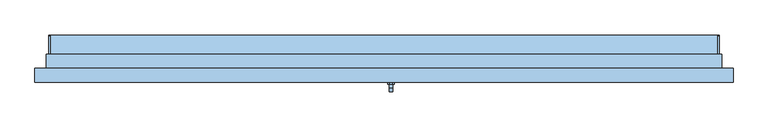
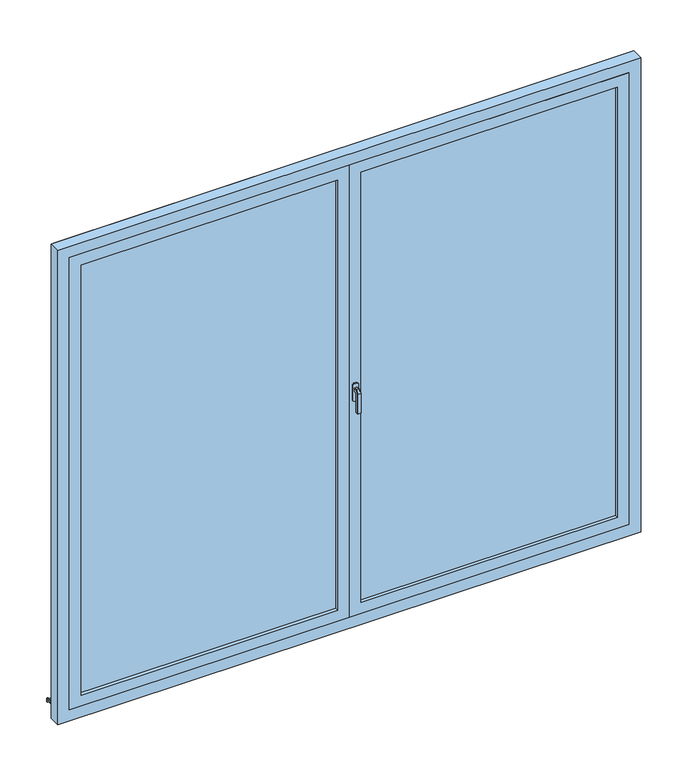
"""IFC4 building model written with IfcOpenShell, lengths in millimetres: window geometry, PF 2 Vantaux - Droits blanc : 240/210."""

from ifc_helpers import new_model, si_unit, point, frame, frame_2d, origin, place, context, project, spatial, polyline, circle_curve, trimmed, segment, composite_curve, outline, extrude, faceted_brep, source, transform, mapped, element, save


def window_bf163d43(model_context):
    return source(origin(), model_context, "Body", "SolidModel", [
        faceted_brep([(30.6460097, -86.0, 1122.0339292), (32.0339292, -86.0, 1120.6460097), (32.0339292, -86.0, 1109.3323012), (30.6676988, -86.0, 1107.9660708), (19.3323012, -86.0, 1107.9660708), (17.9660708, -86.0, 1109.3323012), (17.9660708, -86.0, 1120.6460097), (19.3539903, -86.0, 1122.0339292), (30.6460097, -98.9135489, 1122.0339292), (32.0339292, -98.3386538, 1120.6460097), (32.0339292, -111.6460097, 1107.3386538), (32.0339292, -111.6460097, 1020.0), (32.0339292, -100.3323012, 1020.0), (32.0339292, -100.3323012, 1102.6523623), (32.0339292, -93.6523623, 1109.3323012), (30.6676988, -93.0864511, 1107.9660708), (19.3323012, -93.0864511, 1107.9660708), (17.9660708, -93.6523623, 1109.3323012), (17.9660708, -100.3323012, 1102.6523623), (17.9660708, -100.3323012, 1020.0), (17.9660708, -111.6460097, 1020.0), (17.9660708, -111.6460097, 1107.3386538), (17.9660708, -98.3386538, 1120.6460097), (19.3539903, -98.9135489, 1122.0339292), (30.6460097, -113.0339292, 1107.9135489), (30.6676988, -98.9660708, 1102.0864511), (19.3323012, -98.9660708, 1102.0864511), (19.3539903, -113.0339292, 1107.9135489), (30.6460097, -113.0339292, 1020.0), (19.3539903, -113.0339292, 1020.0), (19.3323012, -98.9660708, 1020.0), (30.6676988, -98.9660708, 1020.0)], [[[0, 1, 2, 3, 4, 5, 6, 7]], [[1, 0, 8, 9]], [[2, 1, 9, 10, 11, 12, 13, 14]], [[3, 2, 14, 15]], [[4, 3, 15, 16]], [[5, 4, 16, 17]], [[6, 5, 17, 18, 19, 20, 21, 22]], [[7, 6, 22, 23]], [[0, 7, 23, 8]], [[9, 8, 24, 10]], [[15, 14, 13, 25]], [[16, 15, 25, 26]], [[17, 16, 26, 18]], [[23, 22, 21, 27]], [[8, 23, 27, 24]], [[28, 29, 20, 19, 30, 31, 12, 11]], [[10, 24, 28, 11]], [[25, 13, 12, 31]], [[26, 25, 31, 30]], [[18, 26, 30, 19]], [[27, 21, 20, 29]], [[24, 27, 29, 28]]]),
        extrude(outline(polyline([(1140.0, 32.0), (1140.0, 18.0), (1135.0, 13.0), (1065.0, 13.0), (1060.0, 18.0), (1060.0, 32.0), (1065.0, 37.0), (1135.0, 37.0), (1140.0, 32.0)])), frame((0.0, -86.0, 0.0), z_axis=(0.0, 1.0, 0.0), x_axis=(0.0, 0.0, 1.0)), (0.0, 0.0, 1.0), 6.0),
        extrude(outline(polyline([(90.0288776, 30.7927954), (90.0288776, 19.7145929), (85.0288776, 20.2401141), (85.0288776, 26.0631048), (0.0, 35.0), (0.0, 50.0), (5.0, 50.0), (5.0, 39.7296906), (90.0288776, 30.7927954)])), frame((-1200.0, 0.0, 0.0), z_axis=(1.0, 0.0, 0.0), x_axis=(0.0, 1.0, 0.0)), (0.0, 0.0, 1.0), 2400.0),
        extrude(outline(composite_curve([segment(polyline([(90.0288776, 30.7927954), (5.0, 39.7296906), (5.0, 44.757232), (86.4469915, 36.1968082)]), True, "CONTINUOUS"), segment(trimmed(circle_curve(frame_2d((86.0288776, 32.2187207)), 4.0), [point((86.4469915, 36.1968082))], [point((90.0288776, 32.2187207))], False, "CARTESIAN"), True, "CONTINUOUS"), segment(polyline([(90.0288776, 32.2187207), (90.0288776, 30.7927954)]), True, "CONTINUOUS")], self_intersect=False)), frame((-1200.0, 0.0, 0.0), z_axis=(1.0, 0.0, 0.0), x_axis=(0.0, 1.0, 0.0)), (0.0, 0.0, 1.0), 5.0),
        extrude(outline(composite_curve([segment(polyline([(90.0288776, 30.7927954), (5.0, 39.7296906), (5.0, 44.757232), (86.4469915, 36.1968082)]), True, "CONTINUOUS"), segment(trimmed(circle_curve(frame_2d((86.0288776, 32.2187207)), 4.0), [point((86.4469915, 36.1968082))], [point((90.0288776, 32.2187207))], False, "CARTESIAN"), True, "CONTINUOUS"), segment(polyline([(90.0288776, 32.2187207), (90.0288776, 30.7927954)]), True, "CONTINUOUS")], self_intersect=False)), frame((1195.0, 0.0, 0.0), z_axis=(1.0, 0.0, 0.0), x_axis=(0.0, 1.0, 0.0)), (0.0, 0.0, 1.0), 5.0),
        extrude(outline(polyline([(85.0, 0.0), (2135.0, 0.0), (2135.0, -1200.0), (85.0, -1200.0), (85.0, 0.0)]), holes=[polyline([(135.0, -1150.0), (2085.0, -1150.0), (2085.0, -50.0), (135.0, -50.0), (135.0, -1150.0)])]), frame((0.0, -80.0, 0.0), z_axis=(0.0, 1.0, 0.0), x_axis=(0.0, 0.0, 1.0)), (0.0, 0.0, 1.0), 40.0),
        extrude(outline(polyline([(50.0, -54.0), (1150.0, -54.0), (1150.0, -66.0), (50.0, -66.0), (50.0, -54.0)])), frame((0.0, 0.0, 135.0), z_axis=(0.0, 0.0, 1.0), x_axis=(1.0, 0.0, 0.0)), (0.0, 0.0, 1.0), 1950.0),
        extrude(outline(polyline([(-1150.0, -54.0), (-50.0, -54.0), (-50.0, -66.0), (-1150.0, -66.0), (-1150.0, -54.0)])), frame((0.0, 0.0, 135.0), z_axis=(0.0, 0.0, 1.0), x_axis=(1.0, 0.0, 0.0)), (0.0, 0.0, 1.0), 1950.0),
        extrude(outline(polyline([(85.0, 1200.0), (2135.0, 1200.0), (2135.0, 0.0), (85.0, 0.0), (85.0, 1200.0)]), holes=[polyline([(135.0, 50.0), (2085.0, 50.0), (2085.0, 1150.0), (135.0, 1150.0), (135.0, 50.0)])]), frame((0.0, -80.0, 0.0), z_axis=(0.0, 1.0, 0.0), x_axis=(0.0, 0.0, 1.0)), (0.0, 0.0, 1.0), 40.0),
        faceted_brep([(-1250.0, -80.0, 35.0), (-1250.0, -30.0, 35.0), (-1200.0, -30.0, 35.0), (-1200.0, 0.0, 35.0), (1200.0, 0.0, 35.0), (1200.0, -30.0, 35.0), (1250.0, -30.0, 35.0), (1250.0, -80.0, 35.0), (-1250.0, -80.0, 2185.0), (-1250.0, -30.0, 2185.0), (1250.0, -30.0, 2185.0), (1200.0, -30.0, 74.3761425), (-1200.0, -30.0, 74.3761425), (-1185.0, -30.0, 2120.0), (-1185.0, -30.0, 100.0), (1185.0, -30.0, 100.0), (1185.0, -30.0, 2120.0), (-1200.0, 20.0, 60.9786829), (-1200.0, 20.0, 45.0), (-1200.0, 10.0, 45.0), (-1200.0, 10.0, 50.0), (-1200.0, 0.0, 50.0), (1200.0, 0.0, 50.0), (1200.0, 10.0, 50.0), (1200.0, 10.0, 45.0), (1200.0, 20.0, 45.0), (1200.0, 20.0, 60.9786829), (1250.0, -80.0, 2185.0), (1200.0, -80.0, 2135.0), (1200.0, -80.0, 85.0), (-1200.0, -80.0, 85.0), (-1200.0, -80.0, 2135.0), (-1185.0, -40.0, 2120.0), (-1185.0, -40.0, 100.0), (1185.0, -40.0, 100.0), (1185.0, -40.0, 2120.0), (1200.0, -40.0, 2135.0), (-1200.0, -40.0, 2135.0), (-1200.0, -40.0, 85.0), (1200.0, -40.0, 85.0)], [[[0, 1, 2, 3, 4, 5, 6, 7]], [[1, 0, 8, 9]], [[1, 9, 10, 6, 5, 11, 12, 2], [13, 14, 15, 16]], [[12, 17, 18, 19, 20, 21, 3, 2]], [[3, 21, 22, 4]], [[4, 22, 23, 24, 25, 26, 11, 5]], [[6, 10, 27, 7]], [[0, 7, 27, 8], [28, 29, 30, 31]], [[13, 32, 33, 14]], [[33, 34, 15, 14]], [[35, 16, 15, 34]], [[17, 12, 11, 26]], [[36, 37, 38, 39], [32, 35, 34, 33]], [[38, 37, 31, 30]], [[30, 29, 39, 38]], [[28, 36, 39, 29]], [[18, 17, 26, 25]], [[19, 18, 25, 24]], [[20, 19, 24, 23]], [[21, 20, 23, 22]], [[13, 16, 35, 32]], [[37, 36, 28, 31]], [[10, 9, 8, 27]]]),
        extrude(outline(polyline([(35.0, -1210.0), (35.0, -1200.0), (2135.0, -1200.0), (2135.0, 1200.0), (35.0, 1200.0), (35.0, 1210.0), (2145.0, 1210.0), (2145.0, -1210.0), (35.0, -1210.0)])), frame((0.0, -30.0, 0.0), z_axis=(0.0, 1.0, 0.0), x_axis=(0.0, 0.0, 1.0)), (0.0, 0.0, 1.0), 50.0),
        extrude(outline(polyline([(20.0, -32.0), (20.0, -40.0), (-20.0, -40.0), (-20.0, -32.0), (20.0, -32.0)])), frame((0.0, 0.0, 100.0), z_axis=(0.0, 0.0, 1.0), x_axis=(1.0, 0.0, 0.0)), (0.0, 0.0, 1.0), 2020.0),
    ])


if __name__ == "__main__":
    model = new_model("IFC4")
    model_context = context("Model", 3, world=origin())
    ifc_project = project(units=[si_unit("LENGTHUNIT", "METRE", prefix="MILLI")], contexts=[model_context])
    site = spatial("IfcSite", under=ifc_project)
    building = spatial("IfcBuilding", under=site)
    placement = place(None, origin())
    window_shape = window_bf163d43(model_context)
    element("IfcWindow", 1, ObjectType="PF 2 Vantaux - Droits blanc : 240/210", at=placement, inside=building, context=model_context, shape_type="MappedRepresentation", body=[
        mapped(window_shape, transform((0.0, 0.0, 0.0), x_axis=(1.0, 0.0, 0.0), y_axis=(0.0, 1.0, 0.0), z_axis=(0.0, 0.0, 1.0))),
    ])
    save(model, "model.ifc")
